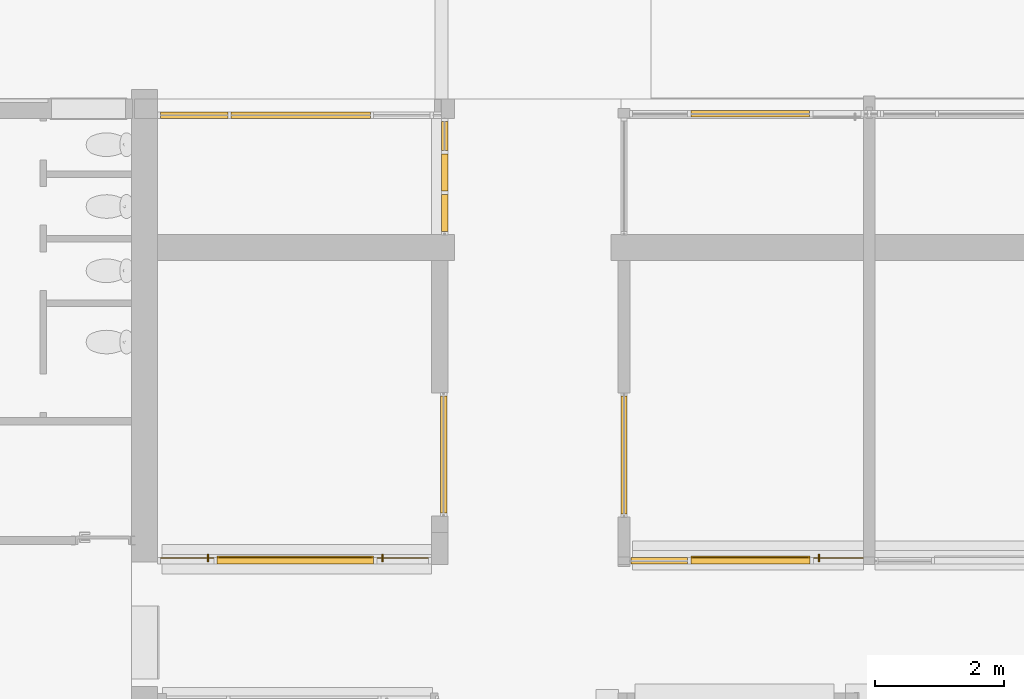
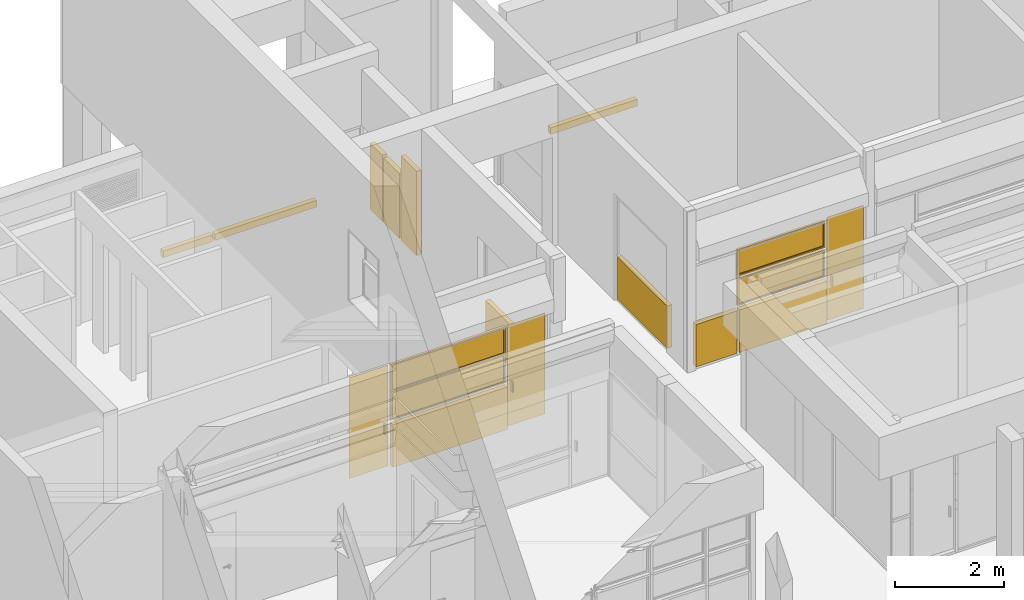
# One storey, part 104 of 117: 11 curtain walls, 4 windows, 3 doors, 7 elements without a shape of their own.
"""IFC4 building model written with IfcOpenShell, lengths in metres."""

from ifc_helpers import new_model, entity, si_unit, converted_unit, derived_unit, direction, frame, origin, place, context, subcontext, project, spatial, indexed_curve, outline, extrude, source, transform, mapped, material, constituent, constituent_set, type_object, type_shapes, element, aggregate, save


model = new_model("IFC4")

# Units and contexts
model_context = context("Model", 3, precision=1e-05, world=origin(), true_north=direction((6.123031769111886e-17, 1.0)))
body_context = subcontext(model_context, "Body", "Model", "MODEL_VIEW")
ifc_project = project(units=[si_unit("LENGTHUNIT", "METRE"), si_unit("AREAUNIT", "SQUARE_METRE"), si_unit("VOLUMEUNIT", "CUBIC_METRE"), converted_unit("PLANEANGLEUNIT", "DEGREE", entity("IfcRatioMeasure", 0.017453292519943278), si_unit("PLANEANGLEUNIT", "RADIAN"), dimensions=[0, 0, 0, 0, 0, 0, 0]), si_unit("MASSUNIT", "GRAM", prefix="KILO"), derived_unit("MASSDENSITYUNIT", [(si_unit("MASSUNIT", "GRAM", prefix="KILO"), 1), (si_unit("LENGTHUNIT", "METRE"), -3)]), derived_unit("MOMENTOFINERTIAUNIT", [(si_unit("LENGTHUNIT", "METRE"), 4)]), si_unit("TIMEUNIT", "SECOND"), si_unit("FREQUENCYUNIT", "HERTZ"), si_unit("THERMODYNAMICTEMPERATUREUNIT", "DEGREE_CELSIUS"), derived_unit("THERMALTRANSMITTANCEUNIT", [(si_unit("MASSUNIT", "GRAM", prefix="KILO"), 1), (si_unit("THERMODYNAMICTEMPERATUREUNIT", "KELVIN"), -1), (si_unit("TIMEUNIT", "SECOND"), -3)]), derived_unit("VOLUMETRICFLOWRATEUNIT", [(si_unit("LENGTHUNIT", "METRE"), 3), (si_unit("TIMEUNIT", "SECOND"), -1)]), derived_unit("MASSFLOWRATEUNIT", [(si_unit("MASSUNIT", "GRAM", prefix="KILO"), 1), (si_unit("TIMEUNIT", "SECOND"), -1)]), derived_unit("ROTATIONALFREQUENCYUNIT", [(si_unit("TIMEUNIT", "SECOND"), -1)]), si_unit("ELECTRICCURRENTUNIT", "AMPERE"), si_unit("ELECTRICVOLTAGEUNIT", "VOLT"), si_unit("POWERUNIT", "WATT"), si_unit("FORCEUNIT", "NEWTON", prefix="KILO"), si_unit("ILLUMINANCEUNIT", "LUX"), si_unit("LUMINOUSFLUXUNIT", "LUMEN"), si_unit("LUMINOUSINTENSITYUNIT", "CANDELA"), derived_unit("USERDEFINED", [(si_unit("MASSUNIT", "GRAM", prefix="KILO"), -1), (si_unit("LENGTHUNIT", "METRE"), -2), (si_unit("TIMEUNIT", "SECOND"), 3), (si_unit("LUMINOUSFLUXUNIT", "LUMEN"), 1)]), derived_unit("SOUNDPOWERUNIT", [(si_unit("MASSUNIT", "GRAM", prefix="KILO"), 1), (si_unit("LENGTHUNIT", "METRE"), 2), (si_unit("TIMEUNIT", "SECOND"), -3)]), derived_unit("SOUNDPRESSUREUNIT", [(si_unit("MASSUNIT", "GRAM", prefix="KILO"), 1), (si_unit("LENGTHUNIT", "METRE"), -1), (si_unit("TIMEUNIT", "SECOND"), -2)]), derived_unit("LINEARVELOCITYUNIT", [(si_unit("LENGTHUNIT", "METRE"), 1), (si_unit("TIMEUNIT", "SECOND"), -1)]), si_unit("PRESSUREUNIT", "PASCAL"), derived_unit("USERDEFINED", [(si_unit("LENGTHUNIT", "METRE"), -2), (si_unit("MASSUNIT", "GRAM", prefix="KILO"), 1), (si_unit("TIMEUNIT", "SECOND"), -2)]), derived_unit("LINEARFORCEUNIT", [(si_unit("MASSUNIT", "GRAM", prefix="KILO"), 1), (si_unit("LENGTHUNIT", "METRE"), 1), (si_unit("TIMEUNIT", "SECOND"), -2), (si_unit("LENGTHUNIT", "METRE"), -1)]), derived_unit("PLANARFORCEUNIT", [(si_unit("MASSUNIT", "GRAM", prefix="KILO"), 1), (si_unit("LENGTHUNIT", "METRE"), 1), (si_unit("TIMEUNIT", "SECOND"), -2), (si_unit("LENGTHUNIT", "METRE"), -2)])], contexts=[model_context])

# Site, building, storey
site_placement = place(None, origin())
site = spatial("IfcSite", under=ifc_project, at=site_placement, Name="Superficie", CompositionType="ELEMENT")
building_placement = place(site_placement, origin())
building = spatial("IfcBuilding", under=site, at=building_placement, CompositionType="ELEMENT")
storey_placement = place(building_placement, origin())
storey = spatial("IfcBuildingStorey", under=building, at=storey_placement, Name="Nivel 0", CompositionType="ELEMENT", Elevation=0.0)

# Curtain walls
curtain_wall_type_1 = type_object("IfcCurtainWallType", Name="Muro cortina:Muro cortina - simple", PredefinedType="NOTDEFINED")
curtain_wall_1_placement = place(storey_placement, origin())
curtain_wall_1 = element("IfcCurtainWall", 1, at=curtain_wall_1_placement, inside=storey, type_object=curtain_wall_type_1, Name="Muro cortina:Muro cortina - simple", ObjectType="Muro cortina:Muro cortina - simple", PredefinedType="NOTDEFINED")
ifc_material_1 = material(Name="<Unnamed>")
curtain_wall_type_2 = type_object("IfcCurtainWallType", Name="Muro básico:Por defecto - 10 cm", PredefinedType="NOTDEFINED")
curtain_wall_2_placement = place(storey_placement, frame((-15.303200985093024, 5.715829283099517, 0.04500000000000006)))
curtain_wall_2 = element("IfcCurtainWall", 2, at=curtain_wall_2_placement, type_object=curtain_wall_type_2, material=ifc_material_1, Name="Muro básico:Por defecto - 10 cm", ObjectType="Muro básico:Por defecto - 10 cm", PredefinedType="NOTDEFINED", context=body_context, shape_type="SweptSolid", body=[
    extrude(outline(indexed_curve([(0.874999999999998, 0.049999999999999), (-1.5924516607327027e-16, 0.04999999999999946), (1.5924516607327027e-16, -0.04999999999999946), (0.8749999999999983, -0.049999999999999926), (0.874999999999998, 0.049999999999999)], self_intersect=False)), origin(), (0.0, 0.0, 1.0), 0.9500000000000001),
])
curtain_wall_3_placement = place(storey_placement, frame((-14.378200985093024, 5.715829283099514, 0.04500000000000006)))
curtain_wall_3 = element("IfcCurtainWall", 3, at=curtain_wall_3_placement, type_object=curtain_wall_type_2, material=ifc_material_1, Name="Muro básico:Por defecto - 10 cm", ObjectType="Muro básico:Por defecto - 10 cm", PredefinedType="NOTDEFINED", context=body_context, shape_type="SweptSolid", body=[
    extrude(outline(indexed_curve([(1.850000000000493, 0.04999999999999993), (-1.5924516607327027e-16, 0.04999999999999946), (1.5924516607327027e-16, -0.04999999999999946), (1.8500000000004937, -0.04999999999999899), (1.850000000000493, 0.04999999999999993)], self_intersect=False)), origin(), (0.0, 0.0, 1.0), 0.9500000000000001),
])

curtain_wall_4_placement = place(storey_placement, origin())
curtain_wall_4 = element("IfcCurtainWall", 4, at=curtain_wall_4_placement, inside=storey, type_object=curtain_wall_type_1, Name="Muro cortina:Muro cortina - simple", ObjectType="Muro cortina:Muro cortina - simple", PredefinedType="NOTDEFINED")
curtain_wall_5_placement = place(storey_placement, frame((-15.413200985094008, 8.268063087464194, 0.04500000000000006), z_axis=(0.0, 0.0, 1.0), x_axis=(0.0, -1.0, 0.0)))
curtain_wall_5 = element("IfcCurtainWall", 5, at=curtain_wall_5_placement, type_object=curtain_wall_type_2, material=ifc_material_1, Name="Muro básico:Por defecto - 10 cm", ObjectType="Muro básico:Por defecto - 10 cm", PredefinedType="NOTDEFINED", context=body_context, shape_type="SweptSolid", body=[
    extrude(outline(indexed_curve([(1.8272338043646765, 0.049999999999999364), (-5.660014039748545e-17, 0.04999999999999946), (5.660014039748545e-17, -0.04999999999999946), (1.8272338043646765, -0.049999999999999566), (1.8272338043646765, 0.049999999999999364)], self_intersect=False)), origin(), (0.0, 0.0, 1.0), 0.9500000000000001),
])
aggregate(curtain_wall_4, [curtain_wall_5])

curtain_wall_6_placement = place(storey_placement, origin())
curtain_wall_6 = element("IfcCurtainWall", 6, at=curtain_wall_6_placement, inside=storey, type_object=curtain_wall_type_1, Name="Muro cortina:Muro cortina - simple", ObjectType="Muro cortina:Muro cortina - simple", PredefinedType="NOTDEFINED")
curtain_wall_7_placement = place(storey_placement, frame((-21.718200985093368, 5.715829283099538, 0.04500000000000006)))
curtain_wall_7 = element("IfcCurtainWall", 7, at=curtain_wall_7_placement, type_object=curtain_wall_type_2, material=ifc_material_1, Name="Muro básico:Por defecto - 10 cm", ObjectType="Muro básico:Por defecto - 10 cm", PredefinedType="NOTDEFINED", context=body_context, shape_type="SweptSolid", body=[
    extrude(outline(indexed_curve([(2.4250000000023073, 0.05000000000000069), (-1.5924516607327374e-16, 0.050000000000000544), (1.5924516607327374e-16, -0.050000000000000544), (2.4250000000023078, -0.0500000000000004), (2.4250000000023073, 0.05000000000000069)], self_intersect=False)), origin(), (0.0, 0.0, 1.0), 0.9500000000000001),
])

curtain_wall_8_placement = place(storey_placement, origin())
curtain_wall_8 = element("IfcCurtainWall", 8, at=curtain_wall_8_placement, inside=storey, type_object=curtain_wall_type_1, Name="Muro cortina:Muro cortina - simple", ObjectType="Muro cortina:Muro cortina - simple", PredefinedType="NOTDEFINED")
curtain_wall_9_placement = place(storey_placement, frame((-18.208200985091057, 6.4547440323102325, 0.04500000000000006), z_axis=(0.0, 0.0, 1.0), x_axis=(0.0, 1.0, 0.0)))
curtain_wall_9 = element("IfcCurtainWall", 9, at=curtain_wall_9_placement, type_object=curtain_wall_type_2, material=ifc_material_1, Name="Muro básico:Por defecto - 10 cm", ObjectType="Muro básico:Por defecto - 10 cm", PredefinedType="NOTDEFINED", context=body_context, shape_type="SweptSolid", body=[
    extrude(outline(indexed_curve([(1.8160852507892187, 0.049999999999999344), (-5.636593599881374e-17, 0.04999999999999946), (5.636593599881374e-17, -0.04999999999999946), (1.8160852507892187, -0.04999999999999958), (1.8160852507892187, 0.049999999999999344)], self_intersect=False)), origin(), (0.0, 0.0, 1.0), 0.9500000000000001),
])
aggregate(curtain_wall_8, [curtain_wall_9])

curtain_wall_10_placement = place(storey_placement, origin())
curtain_wall_10 = element("IfcCurtainWall", 10, at=curtain_wall_10_placement, inside=storey, type_object=curtain_wall_type_1, Name="Muro cortina:Muro cortina - simple", ObjectType="Muro cortina:Muro cortina - simple", PredefinedType="NOTDEFINED")
curtain_wall_11_placement = place(storey_placement, frame((-18.193200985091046, 10.815829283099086, 0.44500000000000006), z_axis=(0.0, 0.0, 1.0), x_axis=(0.0, 1.0, 0.0)))
curtain_wall_11 = element("IfcCurtainWall", 11, at=curtain_wall_11_placement, type_object=curtain_wall_type_2, material=ifc_material_1, Name="Muro básico:Por defecto - 10 cm", ObjectType="Muro básico:Por defecto - 10 cm", PredefinedType="NOTDEFINED", context=body_context, shape_type="SweptSolid", body=[
    extrude(outline(indexed_curve([(0.5782098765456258, 0.050000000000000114), (-5.639932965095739e-17, 0.04999999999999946), (5.639932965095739e-17, -0.04999999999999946), (0.578209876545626, -0.04999999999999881), (0.5782098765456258, 0.050000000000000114)], self_intersect=False)), origin(), (0.0, 0.0, 1.0), 1.8849999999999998),
])
curtain_wall_12_placement = place(storey_placement, frame((-18.193200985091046, 11.444039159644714, 0.44500000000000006), z_axis=(0.0, 0.0, 1.0), x_axis=(0.0, 1.0, 0.0)))
curtain_wall_12 = element("IfcCurtainWall", 12, at=curtain_wall_12_placement, type_object=curtain_wall_type_2, material=ifc_material_1, Name="Muro básico:Por defecto - 10 cm", ObjectType="Muro básico:Por defecto - 10 cm", PredefinedType="NOTDEFINED", context=body_context, shape_type="SweptSolid", body=[
    extrude(outline(indexed_curve([(0.578209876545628, 0.04999999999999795), (-5.639932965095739e-17, 0.04999999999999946), (5.639932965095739e-17, -0.04999999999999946), (0.5782098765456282, -0.050000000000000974), (0.578209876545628, 0.04999999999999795)], self_intersect=False)), origin(), (0.0, 0.0, 1.0), 1.4599999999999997),
])
curtain_wall_13_placement = place(storey_placement, frame((-18.193200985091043, 12.072249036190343, 0.44500000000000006), z_axis=(0.0, 0.0, 1.0), x_axis=(0.0, 1.0, 0.0)))
curtain_wall_13 = element("IfcCurtainWall", 13, at=curtain_wall_13_placement, type_object=curtain_wall_type_2, material=ifc_material_1, Name="Muro básico:Por defecto - 10 cm", ObjectType="Muro básico:Por defecto - 10 cm", PredefinedType="NOTDEFINED", context=body_context, shape_type="SweptSolid", body=[
    extrude(outline(indexed_curve([(0.44858024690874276, 0.04999999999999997), (-5.639932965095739e-17, 0.04999999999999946), (5.639932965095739e-17, -0.04999999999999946), (0.44858024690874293, -0.049999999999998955), (0.44858024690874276, 0.04999999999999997)], self_intersect=False)), origin(), (0.0, 0.0, 1.0), 1.4849999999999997),
])
aggregate(curtain_wall_10, [curtain_wall_11, curtain_wall_12, curtain_wall_13])

curtain_wall_14_placement = place(storey_placement, origin())
curtain_wall_14 = element("IfcCurtainWall", 14, at=curtain_wall_14_placement, inside=storey, type_object=curtain_wall_type_1, Name="Muro cortina:Muro cortina - simple", ObjectType="Muro cortina:Muro cortina - simple", PredefinedType="NOTDEFINED")
curtain_wall_15_placement = place(storey_placement, frame((-19.34320098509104, 12.62082928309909, 0.8549999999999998), z_axis=(0.0, 0.0, 1.0), x_axis=(-1.0, 0.0, 0.0)))
curtain_wall_15 = element("IfcCurtainWall", 15, at=curtain_wall_15_placement, type_object=curtain_wall_type_2, material=ifc_material_1, Name="Muro básico:Por defecto - 10 cm", ObjectType="Muro básico:Por defecto - 10 cm", PredefinedType="NOTDEFINED", context=body_context, shape_type="SweptSolid", body=[
    extrude(outline(indexed_curve([(2.1550000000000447, 0.04999999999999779), (-1.6209698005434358e-16, 0.04999999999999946), (1.6209698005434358e-16, -0.04999999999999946), (2.1550000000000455, -0.05000000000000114), (2.1550000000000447, 0.04999999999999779)], self_intersect=False)), origin(), (0.0, 0.0, 1.0), 0.15000000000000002),
])
curtain_wall_16_placement = place(storey_placement, frame((-21.548200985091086, 12.620829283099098, 0.8549999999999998), z_axis=(0.0, 0.0, 1.0), x_axis=(-1.0, 0.0, 0.0)))
curtain_wall_16 = element("IfcCurtainWall", 16, at=curtain_wall_16_placement, type_object=curtain_wall_type_2, material=ifc_material_1, Name="Muro básico:Por defecto - 10 cm", ObjectType="Muro básico:Por defecto - 10 cm", PredefinedType="NOTDEFINED", context=body_context, shape_type="SweptSolid", body=[
    extrude(outline(indexed_curve([(1.0450000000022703, 0.05000000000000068), (-1.6209698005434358e-16, 0.04999999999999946), (1.6209698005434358e-16, -0.04999999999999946), (1.0450000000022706, -0.04999999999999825), (1.0450000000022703, 0.05000000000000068)], self_intersect=False)), origin(), (0.0, 0.0, 1.0), 0.15000000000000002),
])
aggregate(curtain_wall_14, [curtain_wall_15, curtain_wall_16])

curtain_wall_17_placement = place(storey_placement, origin())
curtain_wall_17 = element("IfcCurtainWall", 17, at=curtain_wall_17_placement, inside=storey, type_object=curtain_wall_type_1, Name="Muro cortina:Muro cortina - simple", ObjectType="Muro cortina:Muro cortina - simple", PredefinedType="NOTDEFINED")
curtain_wall_18_placement = place(storey_placement, frame((-12.537388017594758, 12.640829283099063, 0.7250000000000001), z_axis=(0.0, 0.0, 1.0), x_axis=(-1.0, 0.0, 0.0)))
curtain_wall_18 = element("IfcCurtainWall", 18, at=curtain_wall_18_placement, type_object=curtain_wall_type_2, material=ifc_material_1, Name="Muro básico:Por defecto - 10 cm", ObjectType="Muro básico:Por defecto - 10 cm", PredefinedType="NOTDEFINED", context=body_context, shape_type="SweptSolid", body=[
    extrude(outline(indexed_curve([(1.8400000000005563, 0.049999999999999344), (-1.1458911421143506e-16, 0.04999999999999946), (1.1458911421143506e-16, -0.04999999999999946), (1.8400000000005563, -0.04999999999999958), (1.8400000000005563, 0.049999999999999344)], self_intersect=False)), origin(), (0.0, 0.0, 1.0), 0.15000000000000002),
])
aggregate(curtain_wall_17, [curtain_wall_18])

# Door
ifc_material_2 = material(Name="Metal - Aluminio", Category="Metal")
ifc_constituent_1 = constituent(ifc_material_2, Name="Metal - Aluminio", Category="Metal")
ifc_material_3 = material(Name="Vidrio", Category="Vidrio")
ifc_constituent_2 = constituent(ifc_material_3, Name="Vidrio", Category="Vidrio")
ifc_constituent_set_1 = constituent_set(constituents=[ifc_constituent_1, ifc_constituent_2], Name="MaterialConstituentSet")
ifc_constituent_3 = constituent(ifc_material_2, Name="Marco/montante", Category="Metal")
ifc_constituent_4 = constituent(ifc_material_3, Name="Panel", Category="Vidrio")
ifc_constituent_set_2 = constituent_set(constituents=[ifc_constituent_3, ifc_constituent_4], Name="MaterialConstituentSet")
door_type_1 = type_object("IfcDoorType", Name="Puerta de cristal abatible en muro cortina:Puerta de cristal abatible en muro cortina", OperationType="NOTDEFINED", PredefinedType="DOOR", material=ifc_constituent_set_2)
shared_shape_1 = source(origin(), body_context, "Body", "SweptSolid", [
    extrude(outline(indexed_curve([(-0.0254, -0.012699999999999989), (0.0254, -0.012699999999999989), (0.0254, 0.012700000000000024), (-0.0254, 0.012700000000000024), (-0.0254, -0.012699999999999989)], self_intersect=False)), frame((-0.2985999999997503, 0.012900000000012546, 0.7619999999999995), z_axis=(0.0, 0.0, 1.0), x_axis=(0.0, 1.0, 0.0)), (0.0, 0.0, 1.0), 0.22860000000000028),
    extrude(outline(indexed_curve([(-0.025399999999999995, -0.012699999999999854), (0.025400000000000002, -0.012699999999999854), (0.025400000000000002, 0.012699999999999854), (-0.025399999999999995, 0.012699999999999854), (-0.025399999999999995, -0.012699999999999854)], self_intersect=False)), frame((-0.2985999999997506, 0.07640000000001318, 0.762), z_axis=(0.0, 0.0, 1.0), x_axis=(0.0, -1.0, 0.0)), (0.0, 0.0, 1.0), 0.22860000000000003),
    extrude(outline(indexed_curve([(-0.3874999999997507, -0.006350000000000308), (0.3874999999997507, -0.006350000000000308), (0.3874999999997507, 0.006350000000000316), (-0.3874999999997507, 0.006350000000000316), (-0.3874999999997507, -0.006350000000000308)], self_intersect=False)), frame((0.0, 0.04465000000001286, 0.0), z_axis=(0.0, 0.0, 1.0), x_axis=(-1.0, 0.0, 0.0)), (0.0, 0.0, 1.0), 2.3049999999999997),
])
type_shapes(door_type_1, [shared_shape_1])
door_1_placement = place(curtain_wall_1_placement, frame((-12.09070098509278, 5.715829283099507, 0.04499999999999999)))
door_1 = element("IfcDoor", 19, at=door_1_placement, type_object=door_type_1, material=ifc_constituent_set_1, Name="Puerta de cristal abatible en muro cortina:Puerta de cristal abatible en muro cortina", ObjectType="Puerta de cristal abatible en muro cortina:Puerta de cristal abatible en muro cortina", OperationType="NOTDEFINED", OverallHeight=2.3049999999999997, OverallWidth=0.7749999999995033, PredefinedType="DOOR", context=body_context, shape_type="MappedRepresentation", body=[
    mapped(shared_shape_1, transform((0.0, 0.0, 0.0), scale=1.0)),
])

# Window
ifc_constituent_5 = constituent(ifc_material_3, Name="Vidrio", Category="Vidrio")
ifc_constituent_6 = constituent(ifc_material_2, Name="Metal - Aluminio", Category="Metal")
ifc_constituent_set_3 = constituent_set(constituents=[ifc_constituent_5, ifc_constituent_6], Name="MaterialConstituentSet")
ifc_constituent_7 = constituent(ifc_material_3, Name="Cristal", Category="Vidrio")
ifc_constituent_8 = constituent(ifc_material_2, Name="Marco/montante", Category="Metal")
ifc_constituent_set_4 = constituent_set(constituents=[ifc_constituent_7, ifc_constituent_8], Name="MaterialConstituentSet")
window_type_1 = type_object("IfcWindowType", Name="Ventana de muro cortina con proyectable simple:Ventana de muro cortina con proyectable simple", PartitioningType="NOTDEFINED", PredefinedType="WINDOW", material=ifc_constituent_set_4)
shared_shape_2 = source(origin(), body_context, "Body", "SweptSolid", [
    extrude(outline(indexed_curve([(-0.006350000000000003, -0.8950000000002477), (0.0063499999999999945, -0.8950000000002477), (0.0063499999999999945, 0.8950000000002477), (-0.006350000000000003, 0.8950000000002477), (-0.006350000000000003, -0.8950000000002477)], self_intersect=False)), frame((0.0, 0.05039999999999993, 0.030000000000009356), z_axis=(0.0, 0.0, 1.0), x_axis=(0.0, 1.0, 0.0)), (0.0, 0.0, 1.0), 0.5549999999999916),
    extrude(outline(indexed_curve([(-0.9250000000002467, -0.30749999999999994), (0.9250000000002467, -0.30749999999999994), (0.9250000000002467, 0.30749999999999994), (-0.9250000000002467, 0.30749999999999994), (-0.9250000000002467, -0.30749999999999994)], self_intersect=False), holes=[indexed_curve([(-0.8950000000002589, -0.2775000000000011), (-0.8950000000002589, 0.2774999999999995), (0.8950000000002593, 0.2774999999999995), (0.8950000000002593, -0.2775000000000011), (-0.8950000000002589, -0.2775000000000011)], self_intersect=False)]), frame((0.0, 0.024999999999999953, 0.30749999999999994), z_axis=(0.0, 1.0, 0.0), x_axis=(1.0, 0.0, 0.0)), (0.0, 0.0, 1.0), 0.05000000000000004),
])
type_shapes(window_type_1, [shared_shape_2])
window_1_placement = place(curtain_wall_1_placement, frame((-13.453200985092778, 5.715829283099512, 1.0450000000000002)))
window_1 = element("IfcWindow", 20, at=window_1_placement, type_object=window_type_1, material=ifc_constituent_set_3, Name="Ventana de muro cortina con proyectable simple:Ventana de muro cortina con proyectable simple", ObjectType="Ventana de muro cortina con proyectable simple:Ventana de muro cortina con proyectable simple", OverallHeight=0.6149999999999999, OverallWidth=1.8500000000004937, PartitioningType="NOTDEFINED", PredefinedType="WINDOW", context=body_context, shape_type="MappedRepresentation", body=[
    mapped(shared_shape_2, transform((0.0, 0.0, 0.0), scale=1.0)),
])

ifc_constituent_9 = constituent(ifc_material_3, Name="Vidrio", Category="Vidrio")
ifc_constituent_10 = constituent(ifc_material_2, Name="Metal - Aluminio", Category="Metal")
ifc_constituent_set_5 = constituent_set(constituents=[ifc_constituent_9, ifc_constituent_10], Name="MaterialConstituentSet")
ifc_constituent_11 = constituent(ifc_material_3, Name="Cristal", Category="Vidrio")
ifc_constituent_12 = constituent(ifc_material_2, Name="Marco/montante", Category="Metal")
ifc_constituent_set_6 = constituent_set(constituents=[ifc_constituent_11, ifc_constituent_12], Name="MaterialConstituentSet")
window_type_2 = type_object("IfcWindowType", Name="Ventana de muro cortina con proyectable simple:Ventana de muro cortina con proyectable simple", PartitioningType="NOTDEFINED", PredefinedType="WINDOW", material=ifc_constituent_set_6)
shared_shape_3 = source(origin(), body_context, "Body", "SweptSolid", [
    extrude(outline(indexed_curve([(-0.006350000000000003, -0.8950000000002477), (0.0063499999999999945, -0.8950000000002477), (0.0063499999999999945, 0.8950000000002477), (-0.006350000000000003, 0.8950000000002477), (-0.006350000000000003, -0.8950000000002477)], self_intersect=False)), frame((0.0, 0.05039999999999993, 0.030000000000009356), z_axis=(0.0, 0.0, 1.0), x_axis=(0.0, 1.0, 0.0)), (0.0, 0.0, 1.0), 0.5299999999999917),
    extrude(outline(indexed_curve([(-0.9250000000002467, -0.29499999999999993), (0.9250000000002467, -0.29499999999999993), (0.9250000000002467, 0.29499999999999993), (-0.9250000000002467, 0.29499999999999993), (-0.9250000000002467, -0.29499999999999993)], self_intersect=False), holes=[indexed_curve([(-0.8950000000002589, -0.26500000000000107), (-0.8950000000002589, 0.2649999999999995), (0.8950000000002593, 0.2649999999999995), (0.8950000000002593, -0.26500000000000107), (-0.8950000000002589, -0.26500000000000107)], self_intersect=False)]), frame((0.0, 0.024999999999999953, 0.29499999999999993), z_axis=(0.0, 1.0, 0.0), x_axis=(1.0, 0.0, 0.0)), (0.0, 0.0, 1.0), 0.05000000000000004),
])
type_shapes(window_type_2, [shared_shape_3])
window_2_placement = place(curtain_wall_1_placement, frame((-13.453200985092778, 5.715829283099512, 1.71)))
window_2 = element("IfcWindow", 21, at=window_2_placement, type_object=window_type_2, material=ifc_constituent_set_5, Name="Ventana de muro cortina con proyectable simple:Ventana de muro cortina con proyectable simple", ObjectType="Ventana de muro cortina con proyectable simple:Ventana de muro cortina con proyectable simple", OverallHeight=0.5899999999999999, OverallWidth=1.8500000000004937, PartitioningType="NOTDEFINED", PredefinedType="WINDOW", context=body_context, shape_type="MappedRepresentation", body=[
    mapped(shared_shape_3, transform((0.0, 0.0, 0.0), scale=1.0)),
])

aggregate(curtain_wall_1, [curtain_wall_2, curtain_wall_3, door_1, window_1, window_2])

# Door
ifc_constituent_13 = constituent(ifc_material_2, Name="Metal - Aluminio", Category="Metal")
ifc_constituent_14 = constituent(ifc_material_3, Name="Vidrio", Category="Vidrio")
ifc_constituent_set_7 = constituent_set(constituents=[ifc_constituent_13, ifc_constituent_14], Name="MaterialConstituentSet")
ifc_constituent_15 = constituent(ifc_material_2, Name="Marco/montante", Category="Metal")
ifc_constituent_16 = constituent(ifc_material_3, Name="Panel", Category="Vidrio")
ifc_constituent_set_8 = constituent_set(constituents=[ifc_constituent_15, ifc_constituent_16], Name="MaterialConstituentSet")
door_type_2 = type_object("IfcDoorType", Name="Puerta de cristal abatible en muro cortina:Puerta de cristal abatible en muro cortina", OperationType="NOTDEFINED", PredefinedType="DOOR", material=ifc_constituent_set_8)
shared_shape_4 = source(origin(), body_context, "Body", "SweptSolid", [
    extrude(outline(indexed_curve([(-0.012700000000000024, -0.0254), (0.012700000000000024, -0.0254), (0.012700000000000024, 0.0254), (-0.012700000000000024, 0.0254), (-0.012700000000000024, -0.0254)], self_intersect=False)), frame((0.32359999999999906, 0.012900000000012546, 0.7619999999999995)), (0.0, 0.0, 1.0), 0.22860000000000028),
    extrude(outline(indexed_curve([(-0.012699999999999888, -0.025399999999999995), (0.01269999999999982, -0.025399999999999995), (0.01269999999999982, 0.025400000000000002), (-0.012699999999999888, 0.025400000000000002), (-0.012699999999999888, -0.025399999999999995)], self_intersect=False)), frame((0.3235999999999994, 0.07640000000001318, 0.762), z_axis=(0.0, 0.0, 1.0), x_axis=(-1.0, 0.0, 0.0)), (0.0, 0.0, 1.0), 0.22860000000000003),
    extrude(outline(indexed_curve([(-0.006350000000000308, -0.4124999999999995), (0.006350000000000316, -0.4124999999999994), (0.006350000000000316, 0.41249999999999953), (-0.006350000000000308, 0.4124999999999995), (-0.006350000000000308, -0.4124999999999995)], self_intersect=False)), frame((0.0, 0.04465000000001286, 0.0), z_axis=(0.0, 0.0, 1.0), x_axis=(0.0, -1.0, 0.0)), (0.0, 0.0, 1.0), 2.255),
])
type_shapes(door_type_2, [shared_shape_4])
door_2_placement = place(curtain_wall_6_placement, frame((-22.180700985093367, 5.71582928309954, 0.04499999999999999)))
door_2 = element("IfcDoor", 22, at=door_2_placement, type_object=door_type_2, material=ifc_constituent_set_7, Name="Puerta de cristal abatible en muro cortina:Puerta de cristal abatible en muro cortina", ObjectType="Puerta de cristal abatible en muro cortina:Puerta de cristal abatible en muro cortina", OperationType="NOTDEFINED", OverallHeight=2.255, OverallWidth=0.8250000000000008, PredefinedType="DOOR", context=body_context, shape_type="MappedRepresentation", body=[
    mapped(shared_shape_4, transform((0.0, 0.0, 0.0), scale=1.0)),
])

ifc_constituent_17 = constituent(ifc_material_2, Name="Metal - Aluminio", Category="Metal")
ifc_constituent_18 = constituent(ifc_material_3, Name="Vidrio", Category="Vidrio")
ifc_constituent_set_9 = constituent_set(constituents=[ifc_constituent_17, ifc_constituent_18], Name="MaterialConstituentSet")
ifc_constituent_19 = constituent(ifc_material_2, Name="Marco/montante", Category="Metal")
ifc_constituent_20 = constituent(ifc_material_3, Name="Panel", Category="Vidrio")
ifc_constituent_set_10 = constituent_set(constituents=[ifc_constituent_19, ifc_constituent_20], Name="MaterialConstituentSet")
door_type_3 = type_object("IfcDoorType", Name="Puerta de cristal abatible en muro cortina:Puerta de cristal abatible en muro cortina", OperationType="NOTDEFINED", PredefinedType="DOOR", material=ifc_constituent_set_10)
shared_shape_5 = source(origin(), body_context, "Body", "SweptSolid", [
    extrude(outline(indexed_curve([(-0.0254, -0.012699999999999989), (0.0254, -0.012699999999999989), (0.0254, 0.012700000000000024), (-0.0254, 0.012700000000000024), (-0.0254, -0.012699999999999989)], self_intersect=False)), frame((-0.3110999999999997, 0.012900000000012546, 0.7619999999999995), z_axis=(0.0, 0.0, 1.0), x_axis=(0.0, 1.0, 0.0)), (0.0, 0.0, 1.0), 0.22860000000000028),
    extrude(outline(indexed_curve([(-0.025399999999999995, -0.012699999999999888), (0.025400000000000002, -0.012699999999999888), (0.025400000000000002, 0.01269999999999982), (-0.025399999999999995, 0.01269999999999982), (-0.025399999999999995, -0.012699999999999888)], self_intersect=False)), frame((-0.3111000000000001, 0.07640000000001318, 0.762), z_axis=(0.0, 0.0, 1.0), x_axis=(0.0, -1.0, 0.0)), (0.0, 0.0, 1.0), 0.22860000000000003),
    extrude(outline(indexed_curve([(-0.4000000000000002, -0.006350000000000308), (0.4000000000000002, -0.006350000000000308), (0.4000000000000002, 0.006350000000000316), (-0.4000000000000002, 0.006350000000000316), (-0.4000000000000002, -0.006350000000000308)], self_intersect=False)), frame((0.0, 0.04465000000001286, 0.0), z_axis=(0.0, 0.0, 1.0), x_axis=(-1.0, 0.0, 0.0)), (0.0, 0.0, 1.0), 2.2550000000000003),
])
type_shapes(door_type_3, [shared_shape_5])
door_3_placement = place(curtain_wall_6_placement, frame((-18.843200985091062, 5.715829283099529, 0.04499999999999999)))
door_3 = element("IfcDoor", 23, at=door_3_placement, type_object=door_type_3, material=ifc_constituent_set_9, Name="Puerta de cristal abatible en muro cortina:Puerta de cristal abatible en muro cortina", ObjectType="Puerta de cristal abatible en muro cortina:Puerta de cristal abatible en muro cortina", OperationType="NOTDEFINED", OverallHeight=2.2550000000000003, OverallWidth=0.8000000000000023, PredefinedType="DOOR", context=body_context, shape_type="MappedRepresentation", body=[
    mapped(shared_shape_5, transform((0.0, 0.0, 0.0), scale=1.0)),
])

# Window
ifc_constituent_21 = constituent(ifc_material_3, Name="Vidrio", Category="Vidrio")
ifc_constituent_22 = constituent(ifc_material_2, Name="Metal - Aluminio", Category="Metal")
ifc_constituent_set_11 = constituent_set(constituents=[ifc_constituent_21, ifc_constituent_22], Name="MaterialConstituentSet")
ifc_constituent_23 = constituent(ifc_material_3, Name="Cristal", Category="Vidrio")
ifc_constituent_24 = constituent(ifc_material_2, Name="Marco/montante", Category="Metal")
ifc_constituent_set_12 = constituent_set(constituents=[ifc_constituent_23, ifc_constituent_24], Name="MaterialConstituentSet")
window_type_3 = type_object("IfcWindowType", Name="Ventana de muro cortina con proyectable simple:Ventana de muro cortina con proyectable simple", PartitioningType="NOTDEFINED", PredefinedType="WINDOW", material=ifc_constituent_set_12)
shared_shape_6 = source(origin(), body_context, "Body", "SweptSolid", [
    extrude(outline(indexed_curve([(-0.006350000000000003, -1.1825000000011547), (0.0063499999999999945, -1.1825000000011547), (0.0063499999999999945, 1.1825000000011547), (-0.006350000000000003, 1.1825000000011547), (-0.006350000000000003, -1.1825000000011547)], self_intersect=False)), frame((0.0, 0.05039999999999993, 0.030000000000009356), z_axis=(0.0, 0.0, 1.0), x_axis=(0.0, 1.0, 0.0)), (0.0, 0.0, 1.0), 0.5799999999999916),
    extrude(outline(indexed_curve([(-1.2125000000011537, -0.31999999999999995), (1.2125000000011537, -0.31999999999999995), (1.2125000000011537, 0.31999999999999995), (-1.2125000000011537, 0.31999999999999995), (-1.2125000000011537, -0.31999999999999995)], self_intersect=False), holes=[indexed_curve([(-1.182500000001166, -0.2900000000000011), (-1.182500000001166, 0.2899999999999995), (1.1825000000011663, 0.2899999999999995), (1.1825000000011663, -0.2900000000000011), (-1.182500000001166, -0.2900000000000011)], self_intersect=False)]), frame((0.0, 0.024999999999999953, 0.31999999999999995), z_axis=(0.0, 1.0, 0.0), x_axis=(1.0, 0.0, 0.0)), (0.0, 0.0, 1.0), 0.05000000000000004),
])
type_shapes(window_type_3, [shared_shape_6])
window_3_placement = place(curtain_wall_6_placement, frame((-20.505700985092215, 5.715829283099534, 1.045)))
window_3 = element("IfcWindow", 24, at=window_3_placement, type_object=window_type_3, material=ifc_constituent_set_11, Name="Ventana de muro cortina con proyectable simple:Ventana de muro cortina con proyectable simple", ObjectType="Ventana de muro cortina con proyectable simple:Ventana de muro cortina con proyectable simple", OverallHeight=0.6399999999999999, OverallWidth=2.4250000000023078, PartitioningType="NOTDEFINED", PredefinedType="WINDOW", context=body_context, shape_type="MappedRepresentation", body=[
    mapped(shared_shape_6, transform((0.0, 0.0, 0.0), scale=1.0)),
])

ifc_constituent_25 = constituent(ifc_material_3, Name="Vidrio", Category="Vidrio")
ifc_constituent_26 = constituent(ifc_material_2, Name="Metal - Aluminio", Category="Metal")
ifc_constituent_set_13 = constituent_set(constituents=[ifc_constituent_25, ifc_constituent_26], Name="MaterialConstituentSet")
ifc_constituent_27 = constituent(ifc_material_3, Name="Cristal", Category="Vidrio")
ifc_constituent_28 = constituent(ifc_material_2, Name="Marco/montante", Category="Metal")
ifc_constituent_set_14 = constituent_set(constituents=[ifc_constituent_27, ifc_constituent_28], Name="MaterialConstituentSet")
window_type_4 = type_object("IfcWindowType", Name="Ventana de muro cortina con proyectable simple:Ventana de muro cortina con proyectable simple", PartitioningType="NOTDEFINED", PredefinedType="WINDOW", material=ifc_constituent_set_14)
shared_shape_7 = source(origin(), body_context, "Body", "SweptSolid", [
    extrude(outline(indexed_curve([(-0.006350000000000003, -1.1825000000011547), (0.0063499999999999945, -1.1825000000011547), (0.0063499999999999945, 1.1825000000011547), (-0.006350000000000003, 1.1825000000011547), (-0.006350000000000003, -1.1825000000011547)], self_intersect=False)), frame((0.0, 0.05039999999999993, 0.030000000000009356), z_axis=(0.0, 0.0, 1.0), x_axis=(0.0, 1.0, 0.0)), (0.0, 0.0, 1.0), 0.5549999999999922),
    extrude(outline(indexed_curve([(-1.2125000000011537, -0.3075000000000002), (1.2125000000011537, -0.3075000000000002), (1.2125000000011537, 0.3075000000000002), (-1.2125000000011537, 0.3075000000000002), (-1.2125000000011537, -0.3075000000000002)], self_intersect=False), holes=[indexed_curve([(-1.182500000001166, -0.27750000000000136), (-1.182500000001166, 0.2774999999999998), (1.1825000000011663, 0.2774999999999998), (1.1825000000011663, -0.27750000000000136), (-1.182500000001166, -0.27750000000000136)], self_intersect=False)]), frame((0.0, 0.024999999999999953, 0.3075000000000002), z_axis=(0.0, 1.0, 0.0), x_axis=(1.0, 0.0, 0.0)), (0.0, 0.0, 1.0), 0.05000000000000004),
])
type_shapes(window_type_4, [shared_shape_7])
window_4_placement = place(curtain_wall_6_placement, frame((-20.505700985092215, 5.715829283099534, 1.6849999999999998)))
window_4 = element("IfcWindow", 25, at=window_4_placement, type_object=window_type_4, material=ifc_constituent_set_13, Name="Ventana de muro cortina con proyectable simple:Ventana de muro cortina con proyectable simple", ObjectType="Ventana de muro cortina con proyectable simple:Ventana de muro cortina con proyectable simple", OverallHeight=0.6150000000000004, OverallWidth=2.4250000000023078, PartitioningType="NOTDEFINED", PredefinedType="WINDOW", context=body_context, shape_type="MappedRepresentation", body=[
    mapped(shared_shape_7, transform((0.0, 0.0, 0.0), scale=1.0)),
])

aggregate(curtain_wall_6, [door_2, curtain_wall_7, door_3, window_3, window_4])

save(model, "model.ifc")
